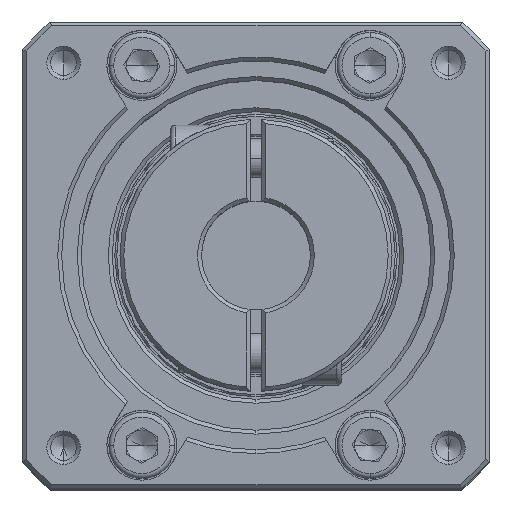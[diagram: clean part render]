
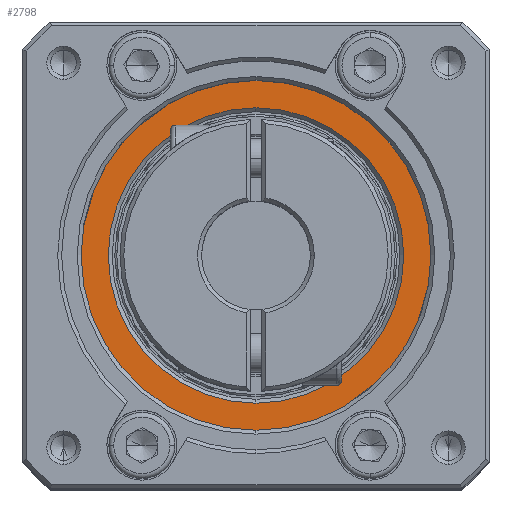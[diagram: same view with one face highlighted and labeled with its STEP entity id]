
A CAD part, top view. The second image highlights one B-rep face of the part: STEP entity #2798.
In plain terms, the highlighted planar face has unit normal (0, 0, 1).
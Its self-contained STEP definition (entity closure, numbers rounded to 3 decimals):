
#731 = VERTEX_POINT ( 'NONE', #90057 ) ;
#2798 = ADVANCED_FACE ( 'NONE', ( #40697, #54698 ), #29543, .T. ) ;
#5223 = EDGE_CURVE ( 'NONE', #41339, #9845, #46804, .T. ) ;
#6633 = AXIS2_PLACEMENT_3D ( 'NONE', #28517, #44942, #69558 ) ;
#8305 = DIRECTION ( 'NONE',  ( 0., 0., 1. ) ) ;
#9845 = VERTEX_POINT ( 'NONE', #31852 ) ;
#16022 = CARTESIAN_POINT ( 'NONE',  ( -38.976, 25.96, 7.705 ) ) ;
#21520 = EDGE_LOOP ( 'NONE', ( #103413, #93667 ) ) ;
#23850 = DIRECTION ( 'NONE',  ( 0., -1., 0. ) ) ;
#26098 = EDGE_CURVE ( 'NONE', #53547, #731, #59144, .T. ) ;
#28517 = CARTESIAN_POINT ( 'NONE',  ( -38.976, 25.96, 7.705 ) ) ;
#29543 = PLANE ( 'NONE',  #100690 ) ;
#30519 = AXIS2_PLACEMENT_3D ( 'NONE', #42241, #49388, #81735 ) ;
#30595 = ORIENTED_EDGE ( 'NONE', *, *, #94029, .T. ) ;
#31852 = CARTESIAN_POINT ( 'NONE',  ( -38.976, 48.46, 7.705 ) ) ;
#38110 = DIRECTION ( 'NONE',  ( 0., -1., 0. ) ) ;
#40697 = FACE_BOUND ( 'NONE', #45783, .T. ) ;
#41339 = VERTEX_POINT ( 'NONE', #98719 ) ;
#42241 = CARTESIAN_POINT ( 'NONE',  ( -38.976, 25.96, 7.705 ) ) ;
#43042 = AXIS2_PLACEMENT_3D ( 'NONE', #16022, #8305, #23850 ) ;
#44942 = DIRECTION ( 'NONE',  ( 0., 0., -1. ) ) ;
#45783 = EDGE_LOOP ( 'NONE', ( #30595, #79667 ) ) ;
#46804 = CIRCLE ( 'NONE', #43042, 22.5 ) ;
#49388 = DIRECTION ( 'NONE',  ( 0., 0., -1. ) ) ;
#53547 = VERTEX_POINT ( 'NONE', #84194 ) ;
#54698 = FACE_OUTER_BOUND ( 'NONE', #21520, .T. ) ;
#54890 = CIRCLE ( 'NONE', #100283, 22.5 ) ;
#59144 = CIRCLE ( 'NONE', #6633, 19. ) ;
#61985 = DIRECTION ( 'NONE',  ( 0., 0., 1. ) ) ;
#69505 = CARTESIAN_POINT ( 'NONE',  ( -38.976, 25.96, 7.705 ) ) ;
#69558 = DIRECTION ( 'NONE',  ( 0., -1., 0. ) ) ;
#70227 = CARTESIAN_POINT ( 'NONE',  ( -38.976, 25.96, 7.705 ) ) ;
#74862 = EDGE_CURVE ( 'NONE', #9845, #41339, #54890, .T. ) ;
#78357 = DIRECTION ( 'NONE',  ( 0., 0., 1. ) ) ;
#78840 = CIRCLE ( 'NONE', #30519, 19. ) ;
#79667 = ORIENTED_EDGE ( 'NONE', *, *, #26098, .T. ) ;
#81735 = DIRECTION ( 'NONE',  ( 0., -1., 0. ) ) ;
#84194 = CARTESIAN_POINT ( 'NONE',  ( -38.976, 44.96, 7.705 ) ) ;
#85784 = DIRECTION ( 'NONE',  ( 0., -1., 0. ) ) ;
#90057 = CARTESIAN_POINT ( 'NONE',  ( -38.976, 6.96, 7.705 ) ) ;
#93667 = ORIENTED_EDGE ( 'NONE', *, *, #74862, .T. ) ;
#94029 = EDGE_CURVE ( 'NONE', #731, #53547, #78840, .T. ) ;
#98719 = CARTESIAN_POINT ( 'NONE',  ( -38.976, 3.46, 7.705 ) ) ;
#100283 = AXIS2_PLACEMENT_3D ( 'NONE', #69505, #61985, #38110 ) ;
#100690 = AXIS2_PLACEMENT_3D ( 'NONE', #70227, #78357, #85784 ) ;
#103413 = ORIENTED_EDGE ( 'NONE', *, *, #5223, .T. ) ;
